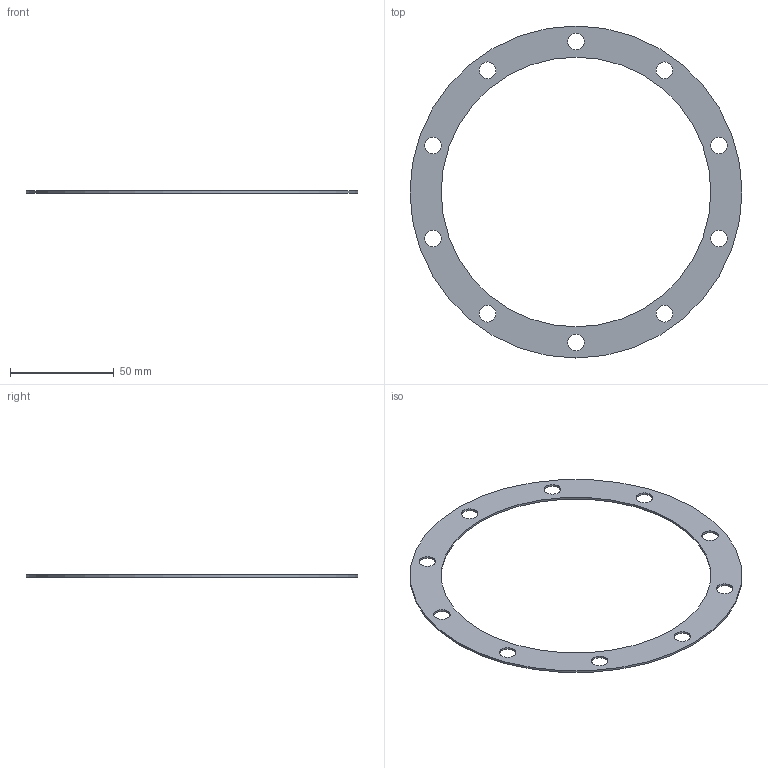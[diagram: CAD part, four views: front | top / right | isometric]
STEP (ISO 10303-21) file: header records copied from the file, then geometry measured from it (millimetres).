
FILE_DESCRIPTION(/* description */ (''),/* implementation_level */ '2;1');
FILE_NAME(/* name */ 'G:\YandexDisk\Работа\Inventor\Универ\ОАП\Лабораторные работы\ЛР6 Создание сборок\Редуктор\stp\Прокладка 3.stp',/* time_stamp */ '2023-11-17T06:36:22+03:00',/* author */ ('34740'),/* organization */ (''),/* preprocessor_version */ 'ST-DEVELOPER v18.1',/* originating_system */ 'Autodesk Inventor 2022',/* authorisation */ '');
FILE_SCHEMA (('AUTOMOTIVE_DESIGN { 1 0 10303 214 3 1 1 }','MODEL_BASED_INTEGRATED_MANUFACTURING_SCHEMA'));
Length unit declared in the file: millimetre
Products named in the file (1): Прокладка 3
Bounding box: 160 x 160 x 1 mm (x, y, z)
Volume: 6330.3 mm3; surface area: 13823 mm2
Topology: 1 solids, 1 shells, 14 faces, 36 edges, 24 vertices
Faces by surface type: cylinder 12, plane 2
Full cylindrical faces by diameter (mm): 8 x10, 130 x1, 160 x1
Entity records: 529 total; most frequent: DIRECTION 90, CARTESIAN_POINT 75, ORIENTED_EDGE 72, AXIS2_PLACEMENT_3D 39, EDGE_LOOP 36, EDGE_CURVE 36, CIRCLE 24, VERTEX_POINT 24
